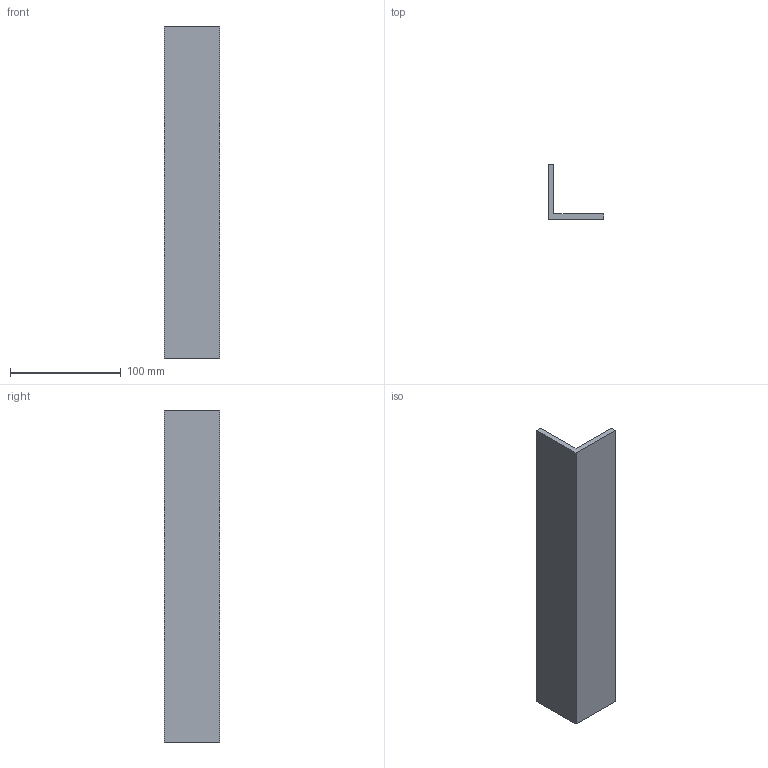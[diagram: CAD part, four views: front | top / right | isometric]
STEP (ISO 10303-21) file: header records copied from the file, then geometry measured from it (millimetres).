
FILE_DESCRIPTION (( 'STEP AP203' ), '1' );
FILE_NAME ('48-5-50-50褒臏.STEP', '2015-07-07T03:59:57', ( '' ), ( '' ), 'SwSTEP 2.0', 'SolidWorks 2013', '' );
FILE_SCHEMA (( 'CONFIG_CONTROL_DESIGN' ));
Length unit declared in the file: millimetre
Products named in the file (1): 48-5-50-50褒臏
Bounding box: 50 x 50 x 300 mm (x, y, z)
Volume: 142500 mm3; surface area: 60950 mm2
Topology: 1 solids, 1 shells, 8 faces, 18 edges, 12 vertices
Faces by surface type: plane 8
Entity records: 299 total; most frequent: CARTESIAN_POINT 39, DIRECTION 36, ORIENTED_EDGE 36, VECTOR 18, LINE 18, EDGE_CURVE 18, VERTEX_POINT 12, AXIS2_PLACEMENT_3D 9
